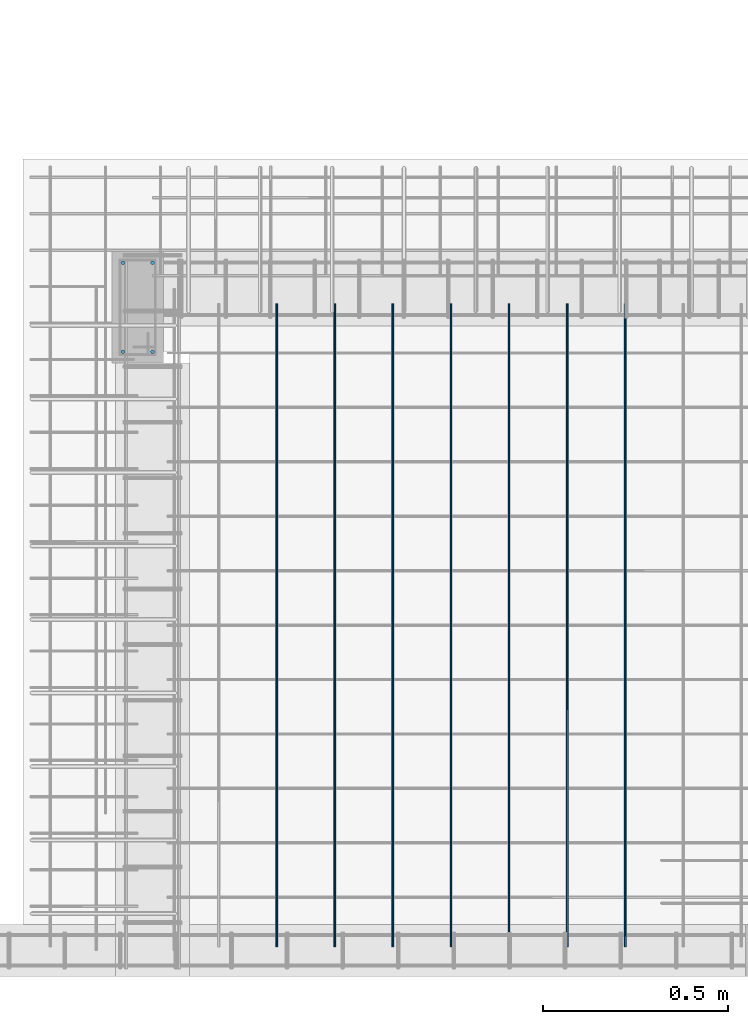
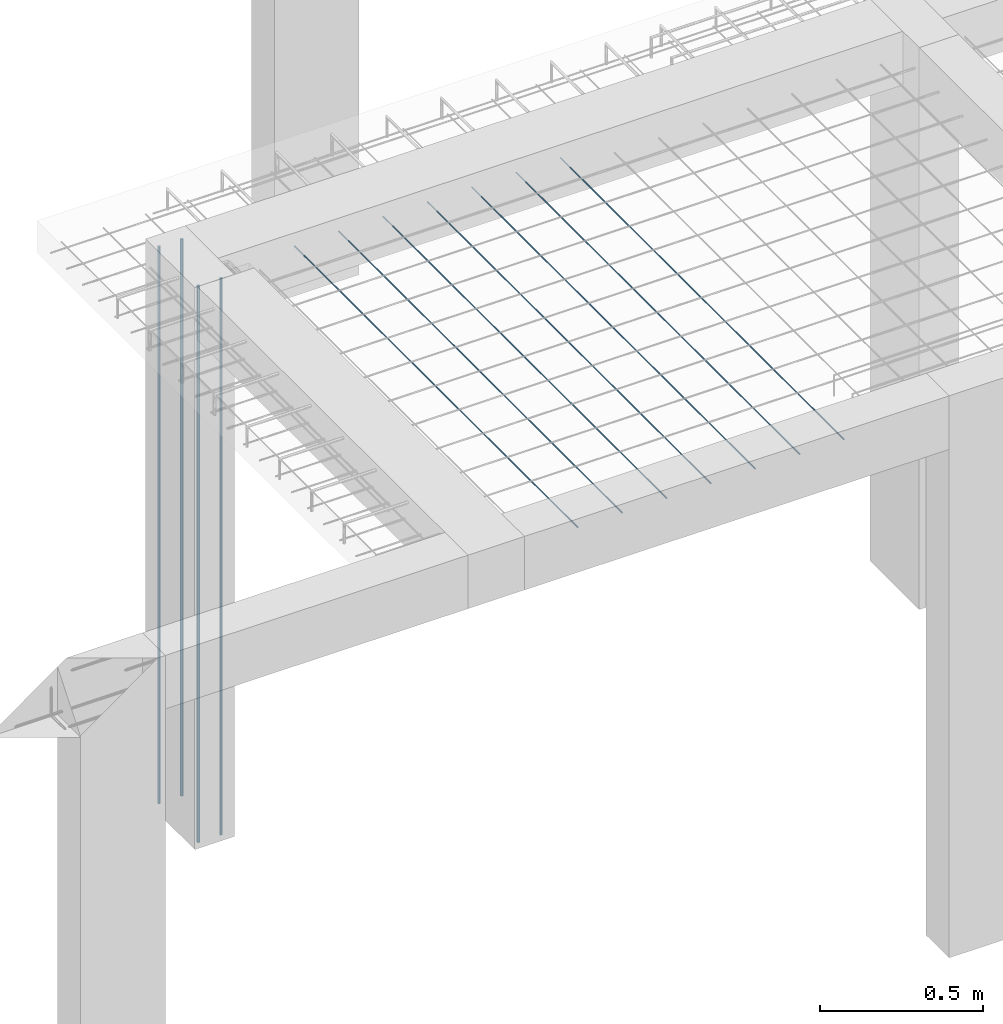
# One storey, part 35 of 236: 11 reinforcing bars.
"""IFC4 building model written with IfcOpenShell, lengths in centimetres."""

from ifc_helpers import new_model, entity, si_unit, derived_unit, frame, origin_with_axes, place, context, project, spatial, element, save


model = new_model("IFC4")

# Units and contexts
model_context = context("Model", 3, precision=1e-05, world=origin_with_axes(), identifier="Body")
ifc_project = project(units=[si_unit("LENGTHUNIT", "METRE", prefix="CENTI"), si_unit("VOLUMEUNIT", "CUBIC_METRE"), si_unit("AREAUNIT", "SQUARE_METRE"), si_unit("POWERUNIT", "WATT"), si_unit("LUMINOUSFLUXUNIT", "LUMEN"), si_unit("ELECTRICCURRENTUNIT", "AMPERE"), si_unit("PRESSUREUNIT", "PASCAL", prefix="KILO"), si_unit("MASSUNIT", "GRAM", prefix="KILO"), si_unit("PLANEANGLEUNIT", "RADIAN"), derived_unit("VOLUMETRICFLOWRATEUNIT", [(si_unit("LENGTHUNIT", "METRE"), 3), (si_unit("TIMEUNIT", "SECOND"), -1)])], contexts=[model_context])

# Site, building, storey
site_placement = place(None, frame((-4000.0, 0.0, 0.0), z_axis=(0.0, 0.0, 1.0), x_axis=(1.0, 0.0, 0.0)))
site = spatial("IfcSite", under=ifc_project, at=site_placement, Name="PADRÃO")
building_placement = place(site_placement, frame((0.0, 0.0, -14.0)))
building = spatial("IfcBuilding", under=site, at=building_placement, Name="CRECHE PRÉ-ESCOLA TIPO 2")
placement_1 = place(building_placement, origin_with_axes())
placement_2 = place(placement_1, frame((0.0, 0.0, 30.0), z_axis=(0.0, 0.0, 1.0), x_axis=(1.0, 0.0, 0.0)))
storey_placement = place(placement_2, frame((0.0, 0.0, 310.0), z_axis=(0.0, 0.0, 1.0), x_axis=(1.0, 0.0, 0.0)))
storey = spatial("IfcBuildingStorey", under=building, at=storey_placement, Name="TERREO", CompositionType="ELEMENT", Elevation=326.0)

# Reinforcing bars
for number, where, z_axis, x_axis, name in (
    (1, (2650.31033333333, 96.75, -109.5), (0.0, 0.0, 1.0), (1.0, 0.0, 0.0), "L1 - Inferior X"),
    (2, (2665.979, 96.75, -109.5), (0.0, 0.0, 1.0), (1.0, 0.0, 0.0), "L1 - Inferior X"),
    (3, (2681.64766666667, 96.75, -109.5), (0.0, 0.0, 1.0), (1.0, 0.0, 0.0), "L1 - Inferior X"),
    (4, (2697.31633333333, 96.75, -109.5), (0.0, 0.0, 1.0), (1.0, 0.0, 0.0), "L1 - Inferior X"),
    (5, (2712.985, 96.75, -109.5), (0.0, 0.0, 1.0), (1.0, 0.0, 0.0), "L1 - Inferior X"),
    (6, (2618.973, 96.75, -109.5), (0.0, 0.0, 1.0), (1.0, 0.0, 0.0), "L1 - Inferior X"),
    (7, (2634.64166666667, 96.75, -109.5), (0.0, 0.0, 1.0), (1.0, 0.0, 0.0), "L1 - Inferior X"),
):
    element("IfcReinforcingBar", number, at=place(storey_placement, frame(where, z_axis=z_axis, x_axis=x_axis)), inside=storey, Name=name, BarLength=0.0, CrossSectionArea=1.9634954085e-05, NominalDiameter=0.5, PredefinedType="MAIN", context=model_context, shape_type="AdvancedSweptSolid", body=[
        entity("IfcSweptDiskSolid", entity("IfcCompositeCurve", [entity("IfcCompositeCurveSegment", "CONTINUOUS", True, entity("IfcPolyline", [entity("IfcCartesianPoint", [0.0, -86.75, -0.25]), entity("IfcCartesianPoint", [0.0, 86.75, -0.25])]))], False), 0.25),
    ])
for number, where, z_axis, x_axis, name in (
    (8, (2585.46, 194.5, -102.0), (0.0, 0.0, 1.0), (1.0, 0.0, 0.0), "P152 - Longitudinal"),
    (9, (2577.46, 170.5, -102.0), (0.0, 0.0, 1.0), (1.0, 0.0, 0.0), "P152 - Longitudinal"),
    (10, (2585.46, 170.5, -102.0), (0.0, 0.0, 1.0), (1.0, 0.0, 0.0), "P152 - Longitudinal"),
    (11, (2577.46, 194.5, -102.0), (0.0, 0.0, 1.0), (1.0, 0.0, 0.0), "P152 - Longitudinal"),
):
    element("IfcReinforcingBar", number, at=place(storey_placement, frame(where, z_axis=z_axis, x_axis=x_axis)), inside=storey, Name=name, BarLength=0.0, CrossSectionArea=7.853981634e-05, NominalDiameter=1.0, PredefinedType="MAIN", context=model_context, shape_type="AdvancedSweptSolid", body=[
        entity("IfcSweptDiskSolid", entity("IfcCompositeCurve", [entity("IfcCompositeCurveSegment", "CONTINUOUS", True, entity("IfcPolyline", [entity("IfcCartesianPoint", [0.0, 0.0, -208.0]), entity("IfcCartesianPoint", [0.0, 0.0, 0.0])]))], False), 0.5),
    ])

save(model, "model.ifc")
